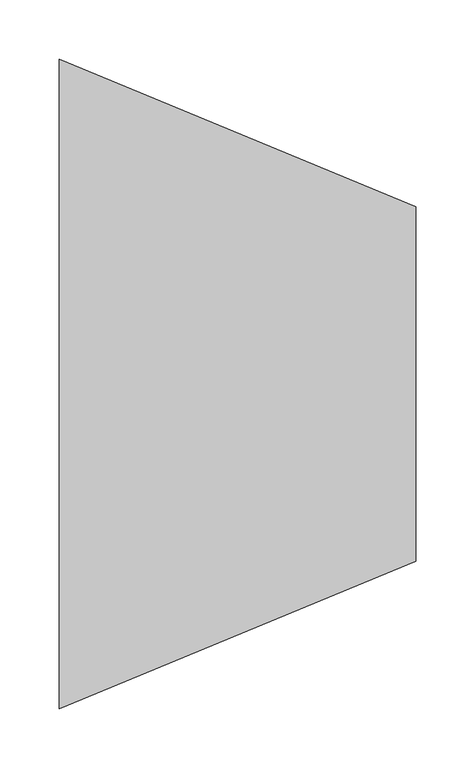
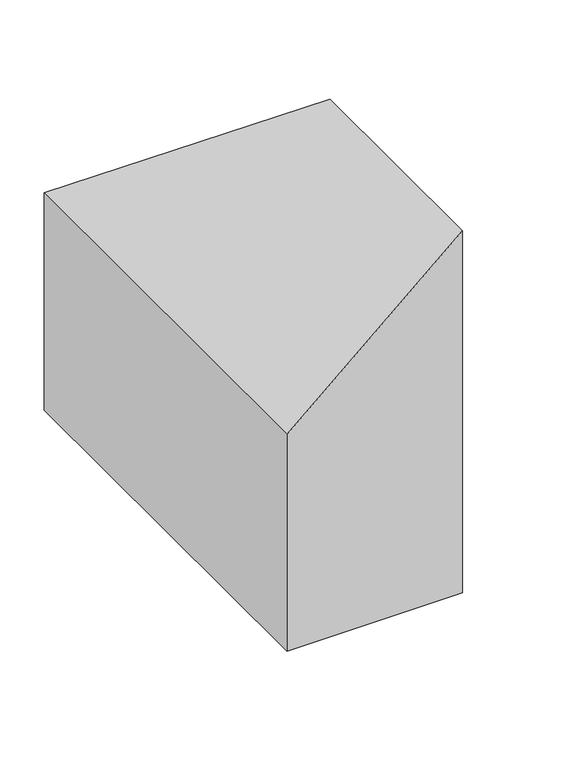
"""IFC4 building model written with IfcOpenShell, lengths in millimetres: duct fitting geometry, M_Transición rectangular - Ángulo : EXT_45 graus."""

import ifcopenshell
import ifcopenshell.guid

model = None  # the IFC model being written
_history = None  # IfcOwnerHistory: only IFC2X3 demands one
_inside = {}  # id of a spatial element -> (the spatial element, [elements in it])
_under = {}  # id of a project, library or spatial element -> (it, [spatial elements below it])
_declared = {}  # id of a project -> (the project, [libraries it declares])
_typed = {}  # id of a type object -> (the type object, [elements of that type])
_made_of = {}  # id of a material, layer set ... -> (it, [elements and type objects made of it])


def new_model(schema):
    """Start an empty IFC model of exactly this schema.

    Asked for "IFC4X3", IfcOpenShell would pick the latest addendum, in which some entities
    have other attributes; the version numbers below select the first issue.
    IFC2X3 requires an IfcOwnerHistory on every rooted entity: one is made here for all.
    """
    global model, _history
    if schema == "IFC4X3":
        model = ifcopenshell.file(schema_version=(4, 3, 0, 0))
    else:
        model = ifcopenshell.file(schema=schema)
    _inside.clear()
    _under.clear()
    _declared.clear()
    _typed.clear()
    _made_of.clear()
    _history = None
    if model.schema == "IFC2X3":
        org = make("IfcOrganization", Name="unknown")
        user = make(
            "IfcPersonAndOrganization",
            ThePerson=make("IfcPerson", FamilyName="unknown"),
            TheOrganization=org,
        )
        app = make(
            "IfcApplication",
            ApplicationDeveloper=org,
            Version="unknown",
            ApplicationFullName="unknown",
            ApplicationIdentifier="unknown",
        )
        _history = make(
            "IfcOwnerHistory",
            OwningUser=user,
            OwningApplication=app,
            ChangeAction="ADDED",
            CreationDate=0,
        )
    return model


def make(cls, **values):
    """One entity of the class cls with the attributes given. An attribute that is None is left unset."""
    return model.create_entity(
        cls, **{name: value for name, value in values.items() if value is not None}
    )


def rooted(cls, **values):
    """An entity with a GlobalId (a new one), such as an element, a storey or a relation."""
    return make(cls, GlobalId=ifcopenshell.guid.new(), OwnerHistory=_history, **values)


def si_unit(unit_type, name, prefix=None):
    """IfcSIUnit, for example si_unit("LENGTHUNIT", "METRE", prefix="MILLI")."""
    return make("IfcSIUnit", UnitType=unit_type, Prefix=prefix, Name=name)


def assignment(units):
    """IfcUnitAssignment: the units of a project."""
    return None if units is None else make("IfcUnitAssignment", Units=units)


def point(xyz):
    """IfcCartesianPoint."""
    return None if xyz is None else make("IfcCartesianPoint", Coordinates=xyz)


def direction(xyz):
    """IfcDirection."""
    return None if xyz is None else make("IfcDirection", DirectionRatios=xyz)


def frame(location, z_axis=None, x_axis=None):
    """IfcAxis2Placement3D, a coordinate frame: its origin and axes. An axis left out is left unset."""
    return make(
        "IfcAxis2Placement3D",
        Location=point(location),
        Axis=direction(z_axis),
        RefDirection=direction(x_axis),
    )


def origin():
    """The frame at (0, 0, 0) with its axes left unset."""
    return frame((0.0, 0.0, 0.0))


def place(relative_to, where):
    """IfcLocalPlacement: puts the frame where relative to a parent placement (None: the world)."""
    return make(
        "IfcLocalPlacement", PlacementRelTo=relative_to, RelativePlacement=where
    )


def context(
    kind, dimensions, precision=None, world=None, true_north=None, identifier=None
):
    """IfcGeometricRepresentationContext, for example the 3D "Model" context."""
    return make(
        "IfcGeometricRepresentationContext",
        ContextIdentifier=identifier,
        ContextType=kind,
        CoordinateSpaceDimension=dimensions,
        Precision=precision,
        WorldCoordinateSystem=world,
        TrueNorth=true_north,
    )


def project(units=None, contexts=None):
    """IfcProject with its units and contexts."""
    return rooted(
        "IfcProject",
        Name="project",
        RepresentationContexts=contexts,
        UnitsInContext=assignment(units),
    )


def spatial(cls, under=None, at=None, **own):
    """A site, building, storey or space (cls), placed at a placement, below another one or the project."""
    s = rooted(cls, ObjectPlacement=at, **own)
    if under is not None:
        _under.setdefault(under.id(), (under, []))[1].append(s)
    return s


def faces_of(points, faces, orient=None, outer=None):
    """IfcFace entities. A face is a list of loops; a loop is a list of indices into points, from 0.

    orient and outer hold one flag for each loop. By default every Orientation is true, the
    first loop of a face is its IfcFaceOuterBound and the others are IfcFaceBound.
    """
    made = []
    for i, loops in enumerate(faces):
        bounds = []
        for j, loop in enumerate(loops):
            is_outer = j == 0 if outer is None else outer[i][j]
            bounds.append(
                make(
                    "IfcFaceOuterBound" if is_outer else "IfcFaceBound",
                    Bound=make("IfcPolyLoop", Polygon=[points[k] for k in loop]),
                    Orientation=True if orient is None else orient[i][j],
                )
            )
        made.append(make("IfcFace", Bounds=bounds))
    return made


def faceted_brep(points, faces, orient=None, outer=None, voids=None):
    """IfcFacetedBrep: a solid bounded by flat faces; with voids (closed shells), ...WithVoids."""
    shared = [point(p) for p in points]
    hull = make("IfcClosedShell", CfsFaces=faces_of(shared, faces, orient, outer))
    if voids is None:
        return make("IfcFacetedBrep", Outer=hull)
    return make(
        "IfcFacetedBrepWithVoids",
        Outer=hull,
        Voids=[
            make(cls, CfsFaces=faces_of(shared, fs, o, b)) for cls, fs, o, b in voids
        ],
    )


def shape(context_of_items, identifier, shape_type, items):
    """IfcShapeRepresentation: the items that make up one representation, for example the "Body"."""
    return make(
        "IfcShapeRepresentation",
        ContextOfItems=context_of_items,
        RepresentationIdentifier=identifier,
        RepresentationType=shape_type,
        Items=items,
    )


def source(mapping_origin, context_of_items, identifier, shape_type, items):
    """IfcRepresentationMap: a shape defined once, which mapped items show again and again."""
    return make(
        "IfcRepresentationMap",
        MappingOrigin=mapping_origin,
        MappedRepresentation=shape(context_of_items, identifier, shape_type, items),
    )


def transform(
    local_origin,
    x_axis=None,
    y_axis=None,
    z_axis=None,
    scale=None,
    scale2=None,
    scale3=None,
    uniform=True,
):
    """IfcCartesianTransformationOperator3D, or its non-uniform kind. x_axis, y_axis, z_axis: its Axis1, 2, 3."""
    if uniform:
        return make(
            "IfcCartesianTransformationOperator3D",
            Axis1=direction(x_axis),
            Axis2=direction(y_axis),
            LocalOrigin=point(local_origin),
            Scale=scale,
            Axis3=direction(z_axis),
        )
    return make(
        "IfcCartesianTransformationOperator3DnonUniform",
        Axis1=direction(x_axis),
        Axis2=direction(y_axis),
        LocalOrigin=point(local_origin),
        Scale=scale,
        Axis3=direction(z_axis),
        Scale2=scale2,
        Scale3=scale3,
    )


def mapped(mapping_source, mapping_target):
    """IfcMappedItem: shows the shape of a source again, moved by a transform."""
    return make(
        "IfcMappedItem", MappingSource=mapping_source, MappingTarget=mapping_target
    )


def made_of(thing, what):
    """Note that an element or type object is made of a material, layer set ...; save() writes the relation."""
    if what is not None:
        _made_of.setdefault(what.id(), (what, []))[1].append(thing)
    return thing


def element(
    cls,
    number,
    at=None,
    inside=None,
    cuts=None,
    type_object=None,
    material=None,
    context=None,
    identifier="Body",
    shape_type=None,
    held_by="IfcProductDefinitionShape",
    body=None,
    shapes=None,
    **own,
):
    """One element of the class cls, such as IfcWall. Its Tag is "e" and its number.

    at: its placement. inside: the storey or other place that contains it. cuts: it is an
    opening in that element (IfcRelVoidsElement). A single representation is given by context,
    identifier, shape_type and body (its items); several are given by shapes. held_by: the class
    of the entity that holds the representations. save() writes the other relations.
    """
    e = rooted(cls, Tag="e%d" % number, ObjectPlacement=at, **own)
    if body is not None:
        shapes = [shape(context, identifier, shape_type, body)]
    if shapes is not None:
        e.Representation = make(held_by, Representations=shapes)
    if inside is not None:
        _inside.setdefault(inside.id(), (inside, []))[1].append(e)
    if cuts is not None:
        rooted(
            "IfcRelVoidsElement", RelatingBuildingElement=cuts, RelatedOpeningElement=e
        )
    if type_object is not None:
        _typed.setdefault(type_object.id(), (type_object, []))[1].append(e)
    return made_of(e, material)


def aggregate(whole, parts):
    """IfcRelAggregates: a whole, such as a stair, and the parts it consists of."""
    return rooted("IfcRelAggregates", RelatingObject=whole, RelatedObjects=parts)


def save(model, path):
    """Write the relations noted so far, then the file.

    IfcRelAggregates (storeys below a building ...), IfcRelContainedInSpatialStructure (elements
    in a storey), IfcRelDefinesByType, IfcRelAssociatesMaterial and IfcRelDeclares: one each for
    every whole, place, type object, material and project.
    """
    for whole, parts in _under.values():
        aggregate(whole, parts)
    for where, things in _inside.values():
        rooted(
            "IfcRelContainedInSpatialStructure",
            RelatedElements=things,
            RelatingStructure=where,
        )
    for kind, things in _typed.values():
        rooted("IfcRelDefinesByType", RelatedObjects=things, RelatingType=kind)
    for what, things in _made_of.values():
        rooted("IfcRelAssociatesMaterial", RelatedObjects=things, RelatingMaterial=what)
    for by, libraries in _declared.values():
        rooted("IfcRelDeclares", RelatingContext=by, RelatedDefinitions=libraries)
    model.write(path)


def duct_fitting_474c0b11(model_context):
    return source(origin(), model_context, "Body", "Brep", [
        faceted_brep([(301.7766953, -150.0, 250.0), (301.7766953, -150.0, -250.0), (301.7766953, 150.0, -250.0), (301.7766953, 150.0, 250.0), (0.0, -275.0, 150.0), (0.0, 275.0, 150.0), (0.0, 275.0, -150.0), (0.0, -275.0, -150.0)], [[[0, 1, 2, 3]], [[4, 5, 6, 7]], [[4, 7, 1, 0]], [[7, 6, 2, 1]], [[6, 5, 3, 2]], [[5, 4, 0, 3]]]),
    ])


if __name__ == "__main__":
    model = new_model("IFC4")
    model_context = context("Model", 3, world=origin())
    ifc_project = project(units=[si_unit("LENGTHUNIT", "METRE", prefix="MILLI")], contexts=[model_context])
    site = spatial("IfcSite", under=ifc_project)
    building = spatial("IfcBuilding", under=site)
    placement = place(None, origin())
    duct_fitting_shape = duct_fitting_474c0b11(model_context)
    element("IfcDuctFitting", 1, ObjectType="M_Transición rectangular - Ángulo : EXT_45 graus", at=placement, inside=building, context=model_context, shape_type="MappedRepresentation", body=[
        mapped(duct_fitting_shape, transform((0.0, 0.0, 0.0), x_axis=(1.0, 0.0, 0.0), y_axis=(0.0, 1.0, 0.0), z_axis=(0.0, 0.0, 1.0))),
    ])
    save(model, "model.ifc")
